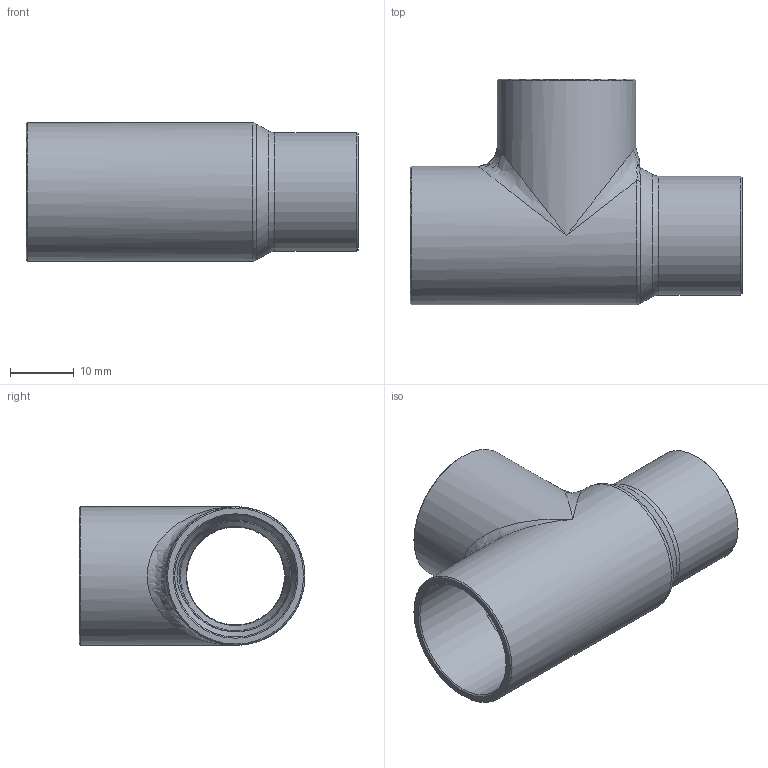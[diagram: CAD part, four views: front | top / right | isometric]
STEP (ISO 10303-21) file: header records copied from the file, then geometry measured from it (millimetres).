
FILE_DESCRIPTION((''),'2;1');
FILE_NAME('G:\SANHA-Ternat\Technik\Management\Bouwmaten + markeringen\z-maattekeningen 3D\29000s\29130343458_3d.stp','2017-08-01T10:04:26',('vdvijverd'),(''),'Autodesk Inventor 2009','Autodesk Inventor 2009','');
FILE_SCHEMA(('AUTOMOTIVE_DESIGN { 1 0 10303 214 1 1 1 1 }'));
Length unit declared in the file: millimetre
Products named in the file (1): 29130343458_3d
Bounding box: 52.2 x 35.5 x 21.8 mm (x, y, z)
Volume: 6226.2 mm3; surface area: 8058.8 mm2
Topology: 1 solids, 1 shells, 37 faces, 92 edges, 48 vertices
Faces by surface type: cone 10, bspline 10, cylinder 9, plane 4, torus 4
Full cylindrical faces by diameter (mm): 15.995 x1, 18.695 x1, 19.17 x2, 21.8 x2
Entity records: 2090 total; most frequent: CARTESIAN_POINT 1369, DIRECTION 150, ORIENTED_EDGE 116, AXIS2_PLACEMENT_3D 75, EDGE_LOOP 60, EDGE_CURVE 58, VERTEX_POINT 42, FACE_OUTER_BOUND 37
